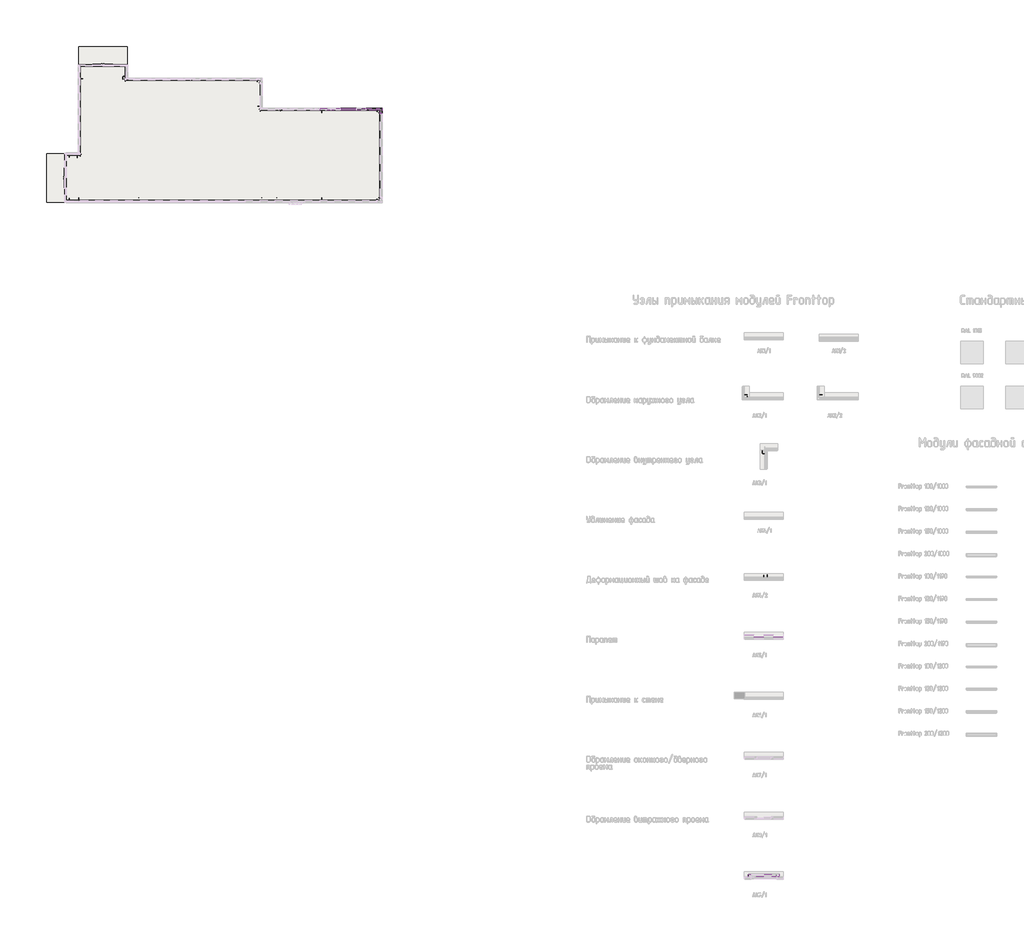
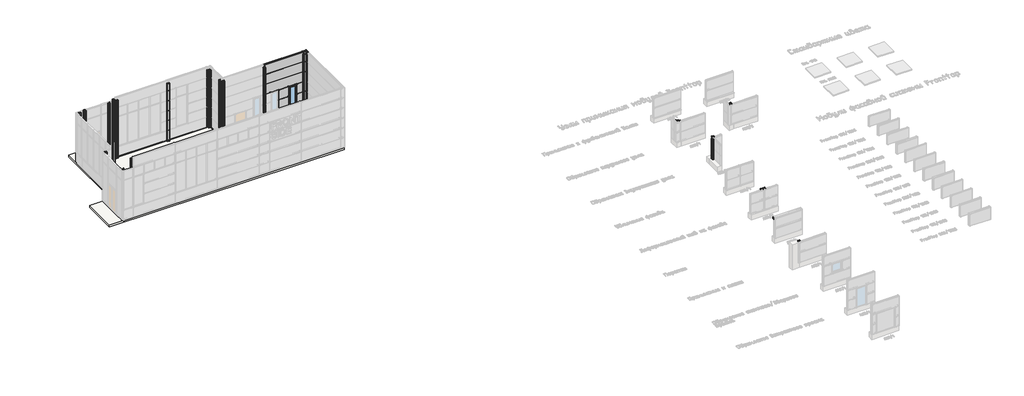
# One storey, part 4 of 37: 39 columns, 13 plates, 10 beams, 1 slab, 1 window.
"""IFC4 building model written with IfcOpenShell, lengths in millimetres."""

from ifc_helpers import new_model, si_unit, frame, origin, place, context, project, spatial, polyline, outline, extrude, transform, mapped, element, save
from components import beam_ac02ee2d, beam_160x160x6shs_bbe97a6c, l_110x70x6_3306c930, l_110x70x6_d274b7ba, l_110x70x6_272b69ad, l_110x70x6_3cb941dd, l_110x70x6_8a1b4ed6, l_110x70x6_fd97dbec, l_110x70x6_443061e0, l_110x70x6_c68c683c, column_160x160x6shs_eccf6851, column_200x160x8rhs_5398ac9a, column_200x160x8rhs_aa57b542, column_200x160x8rhs_df1c46cb, column_200x160x8rhs_3ddef152, l102x76x6_4_0af6abb1, l102x76x6_4_d7a43291, l102x76x6_4_4a3fd003, l102x76x6_4_f19e9d96, plate_d031de24, plate_355e1d5d, plate_a368a3c0, plate_69a0faa1, plate_1ac65dce, window_bba19c4c

model = new_model("IFC4")

# Units and contexts
model_context = context("Model", 3, world=origin())
ifc_project = project(units=[si_unit("LENGTHUNIT", "METRE", prefix="MILLI")], contexts=[model_context])

# Site, building, storey
site = spatial("IfcSite", under=ifc_project)
building = spatial("IfcBuilding", under=site)
storey = spatial("IfcBuildingStorey", under=building, Name="Этаж 01", Elevation=0.0)

# Beams
placement = place(None, origin())
beam_shape = beam_ac02ee2d(model_context)
element("IfcBeam", 1, ObjectType="Труба прямоугольного сечения (ТУ 67-2287-80) Балки : труба200x160x8", at=placement, inside=storey, context=model_context, shape_type="MappedRepresentation", body=[
    mapped(beam_shape, transform((47113.7069431, -29080.1316508, 1925.0), x_axis=(1.0, 0.0, 0.0), y_axis=(0.0, 1.0, 0.0), z_axis=(0.0, 0.0, 1.0))),
])
beam_160x160x6shs_shape = beam_160x160x6shs_bbe97a6c(model_context)
element("IfcBeam", 2, ObjectType="КПС-Квадратное пустотелое сечение : 160x160x6SHS", at=placement, inside=storey, context=model_context, shape_type="MappedRepresentation", body=[
    mapped(beam_160x160x6shs_shape, transform((47123.7069431, -45080.1316508, 2095.0), x_axis=(1.0, 0.0, 0.0), y_axis=(0.0, 1.0, 0.0), z_axis=(0.0, 0.0, 1.0))),
])
l_110x70x6_shape = l_110x70x6_3306c930(model_context)
element("IfcBeam", 3, ObjectType="Уголок (ГОСТ 8510-86) Балки : L 110x70x6", at=placement, inside=storey, context=model_context, shape_type="MappedRepresentation", body=[
    mapped(l_110x70x6_shape, transform((11020.0, -29.0, 15.8), x_axis=(-1.0000000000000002, 0.0, 0.0), y_axis=(0.0, 0.0, -1.0000000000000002), z_axis=(0.0, -1.0000000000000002, 0.0))),
])
l_110x70x6_2_shape = l_110x70x6_d274b7ba(model_context)
element("IfcBeam", 4, ObjectType="Уголок (ГОСТ 8510-86) Балки : L 110x70x6", at=placement, inside=storey, context=model_context, shape_type="MappedRepresentation", body=[
    mapped(l_110x70x6_2_shape, transform((1020.0, 3029.0000002, 15.8), x_axis=(1.0000000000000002, 0.0, 0.0), y_axis=(0.0, 0.0, -1.0000000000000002), z_axis=(0.0, 1.0000000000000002, 0.0))),
])
l_110x70x6_3_shape = l_110x70x6_272b69ad(model_context)
element("IfcBeam", 5, ObjectType="Уголок (ГОСТ 8510-86) Балки : L 110x70x6", at=placement, inside=storey, context=model_context, shape_type="MappedRepresentation", body=[
    mapped(l_110x70x6_3_shape, transform((9000.0, 8029.0, 15.8), x_axis=(1.0000000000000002, 0.0, 0.0), y_axis=(0.0, 0.0, -1.0000000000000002), z_axis=(0.0, 1.0000000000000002, 0.0))),
])
l_110x70x6_4_shape = l_110x70x6_3cb941dd(model_context)
element("IfcBeam", 6, ObjectType="Уголок (ГОСТ 8510-86) Балки : L 110x70x6", at=placement, inside=storey, context=model_context, shape_type="MappedRepresentation", body=[
    mapped(l_110x70x6_4_shape, transform((13529.0, 7000.0, 15.8), x_axis=(0.0, -1.0000000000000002, 0.0), y_axis=(0.0, 0.0, -1.0000000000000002), z_axis=(1.0000000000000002, 0.0, 0.0))),
])
l_110x70x6_5_shape = l_110x70x6_8a1b4ed6(model_context)
element("IfcBeam", 7, ObjectType="Уголок (ГОСТ 8510-86) Балки : L 110x70x6", at=placement, inside=storey, context=model_context, shape_type="MappedRepresentation", body=[
    mapped(l_110x70x6_5_shape, transform((17500.0, 6029.0, 15.8), x_axis=(1.0000000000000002, 0.0, 0.0), y_axis=(0.0, 0.0, -1.0000000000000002), z_axis=(0.0, 1.0000000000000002, 0.0))),
])
l_110x70x6_6_shape = l_110x70x6_fd97dbec(model_context)
element("IfcBeam", 8, ObjectType="Уголок (ГОСТ 8510-86) Балки : L 110x70x6", at=placement, inside=storey, context=model_context, shape_type="MappedRepresentation", body=[
    mapped(l_110x70x6_6_shape, transform((21529.0, 3003.25, 15.8), x_axis=(0.0, -1.0000000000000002, 0.0), y_axis=(0.0, 0.0, -1.0000000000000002), z_axis=(1.0000000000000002, 0.0, 0.0))),
])
l_110x70x6_7_shape = l_110x70x6_443061e0(model_context)
element("IfcBeam", 9, ObjectType="Уголок (ГОСТ 8510-86) Балки : L 110x70x6", at=placement, inside=storey, context=model_context, shape_type="MappedRepresentation", body=[
    mapped(l_110x70x6_7_shape, transform((4529.0, 8512.5, 15.8), x_axis=(0.0, -1.0000000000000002, 0.0), y_axis=(0.0, 0.0, -1.0000000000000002), z_axis=(1.0000000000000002, 0.0, 0.0))),
])
l_110x70x6_8_shape = l_110x70x6_c68c683c(model_context)
element("IfcBeam", 10, ObjectType="Уголок (ГОСТ 8510-86) Балки : L 110x70x6", at=placement, inside=storey, context=model_context, shape_type="MappedRepresentation", body=[
    mapped(l_110x70x6_8_shape, transform((1471.0, 6012.5000002, 15.8), x_axis=(0.0, 1.0000000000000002, 0.0), y_axis=(0.0, 0.0, -1.0000000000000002), z_axis=(-1.0000000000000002, 0.0, 0.0))),
])

# Columns
column_160x160x6shs_shape = column_160x160x6shs_eccf6851(model_context)
element("IfcColumn", 11, ObjectType="КПС-Квадратное пустотелое сечение-Колонна : 160x160x6SHS", at=placement, inside=storey, context=model_context, shape_type="MappedRepresentation", body=[
    mapped(column_160x160x6shs_shape, transform((46173.7069431, -45080.1316508, 0.0), x_axis=(1.0, 0.0, 0.0), y_axis=(0.0, 1.0, 0.0), z_axis=(0.0, 0.0, 1.0))),
])
element("IfcColumn", 12, ObjectType="КПС-Квадратное пустотелое сечение-Колонна : 160x160x6SHS", at=placement, inside=storey, context=model_context, shape_type="MappedRepresentation", body=[
    mapped(column_160x160x6shs_shape, transform((48073.7069431, -45080.1316508, 0.0), x_axis=(1.0, 0.0, 0.0), y_axis=(0.0, 1.0, 0.0), z_axis=(0.0, 0.0, 1.0))),
])
column_200x160x8rhs_shape = column_200x160x8rhs_5398ac9a(model_context)
element("IfcColumn", 13, ObjectType="ППС-Прямоугольное пустотелое сечение-Колонна : 200x160x8RHS", at=placement, inside=storey, context=model_context, shape_type="MappedRepresentation", body=[
    mapped(column_200x160x8rhs_shape, transform((1580.0, 8000.0, 0.0), x_axis=(-1.0, 0.0, 0.0), y_axis=(0.0, -1.0, 0.0), z_axis=(0.0, 0.0, 1.0))),
])
element("IfcColumn", 14, ObjectType="ППС-Прямоугольное пустотелое сечение-Колонна : 200x160x8RHS", at=placement, inside=storey, context=model_context, shape_type="MappedRepresentation", body=[
    mapped(column_200x160x8rhs_shape, transform((9500.0, 7920.0, 0.0), x_axis=(0.0, 1.0, 0.0), y_axis=(-1.0, 0.0, 0.0), z_axis=(0.0, 0.0, 1.0))),
])
element("IfcColumn", 15, ObjectType="ППС-Прямоугольное пустотелое сечение-Колонна : 200x160x8RHS", at=placement, inside=storey, context=model_context, shape_type="MappedRepresentation", body=[
    mapped(column_200x160x8rhs_shape, transform((13400.0, 7920.0, 0.0), x_axis=(0.0, 1.0, 0.0), y_axis=(-1.0, 0.0, 0.0), z_axis=(0.0, 0.0, 1.0))),
])
element("IfcColumn", 16, ObjectType="ППС-Прямоугольное пустотелое сечение-Колонна : 200x160x8RHS", at=placement, inside=storey, context=model_context, shape_type="MappedRepresentation", body=[
    mapped(column_200x160x8rhs_shape, transform((17500.0, 5920.0, 0.0), x_axis=(0.0, 1.0, 0.0), y_axis=(-1.0, 0.0, 0.0), z_axis=(0.0, 0.0, 1.0))),
])
element("IfcColumn", 17, ObjectType="ППС-Прямоугольное пустотелое сечение-Колонна : 200x160x8RHS", at=placement, inside=storey, context=model_context, shape_type="MappedRepresentation", body=[
    mapped(column_200x160x8rhs_shape, transform((21400.0, 5920.0, 0.0), x_axis=(0.0, 1.0, 0.0), y_axis=(-1.0, 0.0, 0.0), z_axis=(0.0, 0.0, 1.0))),
])
element("IfcColumn", 18, ObjectType="ППС-Прямоугольное пустотелое сечение-Колонна : 200x160x8RHS", at=placement, inside=storey, context=model_context, shape_type="MappedRepresentation", body=[
    mapped(column_200x160x8rhs_shape, transform((17500.0, 80.0, 0.0), x_axis=(0.0, 1.0, 0.0), y_axis=(-1.0, 0.0, 0.0), z_axis=(0.0, 0.0, 1.0))),
])
element("IfcColumn", 19, ObjectType="ППС-Прямоугольное пустотелое сечение-Колонна : 200x160x8RHS", at=placement, inside=storey, context=model_context, shape_type="MappedRepresentation", body=[
    mapped(column_200x160x8rhs_shape, transform((21400.0, 80.0, 0.0), x_axis=(0.0, 1.0, 0.0), y_axis=(-1.0, 0.0, 0.0), z_axis=(0.0, 0.0, 1.0))),
])
element("IfcColumn", 20, ObjectType="ППС-Прямоугольное пустотелое сечение-Колонна : 200x160x8RHS", at=placement, inside=storey, context=model_context, shape_type="MappedRepresentation", body=[
    mapped(column_200x160x8rhs_shape, transform((13500.0, 80.0, 0.0), x_axis=(0.0, 1.0, 0.0), y_axis=(-1.0, 0.0, 0.0), z_axis=(0.0, 0.0, 1.0))),
])
element("IfcColumn", 21, ObjectType="ППС-Прямоугольное пустотелое сечение-Колонна : 200x160x8RHS", at=placement, inside=storey, context=model_context, shape_type="MappedRepresentation", body=[
    mapped(column_200x160x8rhs_shape, transform((9500.0, 80.0, 0.0), x_axis=(0.0, 1.0, 0.0), y_axis=(-1.0, 0.0, 0.0), z_axis=(0.0, 0.0, 1.0))),
])
element("IfcColumn", 22, ObjectType="ППС-Прямоугольное пустотелое сечение-Колонна : 200x160x8RHS", at=placement, inside=storey, context=model_context, shape_type="MappedRepresentation", body=[
    mapped(column_200x160x8rhs_shape, transform((5500.0, 80.0, 0.0), x_axis=(0.0, 1.0, 0.0), y_axis=(-1.0, 0.0, 0.0), z_axis=(0.0, 0.0, 1.0))),
])
element("IfcColumn", 23, ObjectType="ППС-Прямоугольное пустотелое сечение-Колонна : 200x160x8RHS", at=placement, inside=storey, context=model_context, shape_type="MappedRepresentation", body=[
    mapped(column_200x160x8rhs_shape, transform((1500.0, 80.0, 0.0), x_axis=(0.0, 1.0, 0.0), y_axis=(-1.0, 0.0, 0.0), z_axis=(0.0, 0.0, 1.0))),
])
element("IfcColumn", 24, ObjectType="ППС-Прямоугольное пустотелое сечение-Колонна : 200x160x8RHS", at=placement, inside=storey, context=model_context, shape_type="MappedRepresentation", body=[
    mapped(column_200x160x8rhs_shape, transform((14500.0, 80.0, 0.0), x_axis=(0.0, 1.0, 0.0), y_axis=(-1.0, 0.0, 0.0), z_axis=(0.0, 0.0, 1.0))),
])
element("IfcColumn", 25, ObjectType="ППС-Прямоугольное пустотелое сечение-Колонна : 200x160x8RHS", at=placement, inside=storey, context=model_context, shape_type="MappedRepresentation", body=[
    mapped(column_200x160x8rhs_shape, transform((13600.0, 5920.0, 0.0), x_axis=(0.0, 1.0, 0.0), y_axis=(-1.0, 0.0, 0.0), z_axis=(0.0, 0.0, 1.0))),
])
element("IfcColumn", 26, ObjectType="ППС-Прямоугольное пустотелое сечение-Колонна : 200x160x8RHS", at=placement, inside=storey, context=model_context, shape_type="MappedRepresentation", body=[
    mapped(column_200x160x8rhs_shape, transform((13420.0578348, 6165.0577046, 0.0), x_axis=(-1.0, 0.0, 0.0), y_axis=(0.0, -1.0, 0.0), z_axis=(0.0, 0.0, 1.0))),
])
element("IfcColumn", 27, ObjectType="ППС-Прямоугольное пустотелое сечение-Колонна : 200x160x8RHS", at=placement, inside=storey, context=model_context, shape_type="MappedRepresentation", body=[
    mapped(column_200x160x8rhs_shape, transform((4600.0, 7920.0, 0.0), x_axis=(0.0, 1.0, 0.0), y_axis=(-1.0, 0.0, 0.0), z_axis=(0.0, 0.0, 1.0))),
])
element("IfcColumn", 28, ObjectType="ППС-Прямоугольное пустотелое сечение-Колонна : 200x160x8RHS", at=placement, inside=storey, context=model_context, shape_type="MappedRepresentation", body=[
    mapped(column_200x160x8rhs_shape, transform((4420.0578348, 8165.0577046, 0.0), x_axis=(-1.0, 0.0, 0.0), y_axis=(0.0, -1.0, 0.0), z_axis=(0.0, 0.0, 1.0))),
])
column_200x160x8rhs_2_shape = column_200x160x8rhs_aa57b542(model_context)
element("IfcColumn", 29, ObjectType="ППС-Прямоугольное пустотелое сечение-Колонна : 200x160x8RHS", at=placement, inside=storey, context=model_context, shape_type="MappedRepresentation", body=[
    mapped(column_200x160x8rhs_2_shape, transform((1400.0578348, 2919.9422954, 0.0), x_axis=(0.0, 1.0, 0.0), y_axis=(-1.0, 0.0, 0.0), z_axis=(0.0, 0.0, 1.0))),
])
element("IfcColumn", 30, ObjectType="ППС-Прямоугольное пустотелое сечение-Колонна : 200x160x8RHS", at=placement, inside=storey, context=model_context, shape_type="MappedRepresentation", body=[
    mapped(column_200x160x8rhs_2_shape, transform((1580.0, 3165.0, 0.0), x_axis=(1.0, 0.0, 0.0), y_axis=(0.0, 1.0, 0.0), z_axis=(0.0, 0.0, 1.0))),
])
column_200x160x8rhs_3_shape = column_200x160x8rhs_df1c46cb(model_context)
element("IfcColumn", 31, ObjectType="ППС-Прямоугольное пустотелое сечение-Колонна : 200x160x8RHS", at=placement, inside=storey, context=model_context, shape_type="MappedRepresentation", body=[
    mapped(column_200x160x8rhs_3_shape, transform((4400.0, 8880.0, 0.0), x_axis=(0.0, 1.0, 0.0), y_axis=(-1.0, 0.0, 0.0), z_axis=(0.0, 0.0, 1.0))),
])
element("IfcColumn", 32, ObjectType="ППС-Прямоугольное пустотелое сечение-Колонна : 200x160x8RHS", at=placement, inside=storey, context=model_context, shape_type="MappedRepresentation", body=[
    mapped(column_200x160x8rhs_3_shape, transform((1600.0, 8880.0, 0.0), x_axis=(0.0, 1.0, 0.0), y_axis=(-1.0, 0.0, 0.0), z_axis=(0.0, 0.0, 1.0))),
])
element("IfcColumn", 33, ObjectType="ППС-Прямоугольное пустотелое сечение-Колонна : 200x160x8RHS", at=placement, inside=storey, context=model_context, shape_type="MappedRepresentation", body=[
    mapped(column_200x160x8rhs_3_shape, transform((640.0, 80.0, 0.0), x_axis=(0.0, 1.0, 0.0), y_axis=(-1.0, 0.0, 0.0), z_axis=(0.0, 0.0, 1.0))),
])
element("IfcColumn", 34, ObjectType="ППС-Прямоугольное пустотелое сечение-Колонна : 200x160x8RHS", at=placement, inside=storey, context=model_context, shape_type="MappedRepresentation", body=[
    mapped(column_200x160x8rhs_3_shape, transform((640.0, 2920.0000002, 0.0), x_axis=(0.0, 1.0, 0.0), y_axis=(-1.0, 0.0, 0.0), z_axis=(0.0, 0.0, 1.0))),
])
column_200x160x8rhs_4_shape = column_200x160x8rhs_3ddef152(model_context)
element("IfcColumn", 35, ObjectType="ППС-Прямоугольное пустотелое сечение-Колонна : 200x160x8RHS", at=placement, inside=storey, context=model_context, shape_type="MappedRepresentation", body=[
    mapped(column_200x160x8rhs_4_shape, transform((47238.8164092, -25080.1316508, 0.0), x_axis=(0.0, 1.0, 0.0), y_axis=(-1.0, 0.0, 0.0), z_axis=(0.0, 0.0, 1.0))),
])
element("IfcColumn", 36, ObjectType="ППС-Прямоугольное пустотелое сечение-Колонна : 200x160x8RHS", at=placement, inside=storey, context=model_context, shape_type="MappedRepresentation", body=[
    mapped(column_200x160x8rhs_4_shape, transform((46998.8164092, -25080.1316508, 0.0), x_axis=(0.0, 1.0, 0.0), y_axis=(-1.0, 0.0, 0.0), z_axis=(0.0, 0.0, 1.0))),
])
element("IfcColumn", 37, ObjectType="ППС-Прямоугольное пустотелое сечение-Колонна : 200x160x8RHS", at=placement, inside=storey, context=model_context, shape_type="MappedRepresentation", body=[
    mapped(column_200x160x8rhs_4_shape, transform((50923.7069431, -13080.1316508, 0.0), x_axis=(0.0, 1.0, 0.0), y_axis=(-1.0, 0.0, 0.0), z_axis=(0.0, 0.0, 1.0))),
])
element("IfcColumn", 38, ObjectType="ППС-Прямоугольное пустотелое сечение-Колонна : 200x160x8RHS", at=placement, inside=storey, context=model_context, shape_type="MappedRepresentation", body=[
    mapped(column_200x160x8rhs_4_shape, transform((47105.2069431, -16808.1316508, 0.0), x_axis=(-1.0, 0.0, 0.0), y_axis=(0.0, -1.0, 0.0), z_axis=(0.0, 0.0, 1.0))),
])
element("IfcColumn", 39, ObjectType="ППС-Прямоугольное пустотелое сечение-Колонна : 200x160x8RHS", at=placement, inside=storey, context=model_context, shape_type="MappedRepresentation", body=[
    mapped(column_200x160x8rhs_4_shape, transform((47285.2069431, -16490.1316508, 0.0), x_axis=(0.0, 1.0, 0.0), y_axis=(-1.0, 0.0, 0.0), z_axis=(0.0, 0.0, 1.0))),
])
element("IfcColumn", 40, ObjectType="ППС-Прямоугольное пустотелое сечение-Колонна : 200x160x8RHS", at=placement, inside=storey, context=model_context, shape_type="MappedRepresentation", body=[
    mapped(column_200x160x8rhs_4_shape, transform((45940.7069431, -33080.1316508, 0.0), x_axis=(0.0, 1.0, 0.0), y_axis=(-1.0, 0.0, 0.0), z_axis=(0.0, 0.0, 1.0))),
])
element("IfcColumn", 41, ObjectType="ППС-Прямоугольное пустотелое сечение-Колонна : 200x160x8RHS", at=placement, inside=storey, context=model_context, shape_type="MappedRepresentation", body=[
    mapped(column_200x160x8rhs_4_shape, transform((45923.7069431, -13080.1316508, 0.0), x_axis=(0.0, 1.0, 0.0), y_axis=(-1.0, 0.0, 0.0), z_axis=(0.0, 0.0, 1.0))),
])
l102x76x6_4_shape = l102x76x6_4_0af6abb1(model_context)
element("IfcColumn", 42, ObjectType="Уголок-Колонна : L102X76X6.4", at=placement, inside=storey, context=model_context, shape_type="MappedRepresentation", body=[
    mapped(l102x76x6_4_shape, transform((13481.6, 7809.0, 0.0), x_axis=(-1.0, 0.0, 0.0), y_axis=(0.0, -1.0, 0.0), z_axis=(0.0, 0.0, 1.0))),
])
element("IfcColumn", 43, ObjectType="Уголок-Колонна : L102X76X6.4", at=placement, inside=storey, context=model_context, shape_type="MappedRepresentation", body=[
    mapped(l102x76x6_4_shape, transform((21481.6, 5809.0, 0.0), x_axis=(-1.0, 0.0, 0.0), y_axis=(0.0, -1.0, 0.0), z_axis=(0.0, 0.0, 1.0))),
])
element("IfcColumn", 44, ObjectType="Уголок-Колонна : L102X76X6.4", at=placement, inside=storey, context=model_context, shape_type="MappedRepresentation", body=[
    mapped(l102x76x6_4_shape, transform((21269.0, 18.4, 0.0), x_axis=(0.0, 1.0, 0.0), y_axis=(-1.0, 0.0, 0.0), z_axis=(0.0, 0.0, 1.0))),
])
l102x76x6_4_2_shape = l102x76x6_4_d7a43291(model_context)
element("IfcColumn", 45, ObjectType="Уголок-Колонна : L102X76X6.4", at=placement, inside=storey, context=model_context, shape_type="MappedRepresentation", body=[
    mapped(l102x76x6_4_2_shape, transform((13269.0, 7981.6, 0.0), x_axis=(0.0, -1.0, 0.0), y_axis=(1.0, 0.0, 0.0), z_axis=(0.0, 0.0, 1.0))),
])
element("IfcColumn", 46, ObjectType="Уголок-Колонна : L102X76X6.4", at=placement, inside=storey, context=model_context, shape_type="MappedRepresentation", body=[
    mapped(l102x76x6_4_2_shape, transform((21269.0, 5981.6577046, 0.0), x_axis=(0.0, -1.0, 0.0), y_axis=(1.0, 0.0, 0.0), z_axis=(0.0, 0.0, 1.0))),
])
element("IfcColumn", 47, ObjectType="Уголок-Колонна : L102X76X6.4", at=placement, inside=storey, context=model_context, shape_type="MappedRepresentation", body=[
    mapped(l102x76x6_4_2_shape, transform((21481.6, 191.0, 0.0), x_axis=(-1.0, 0.0, 0.0), y_axis=(0.0, -1.0, 0.0), z_axis=(0.0, 0.0, 1.0))),
])
l102x76x6_4_3_shape = l102x76x6_4_4a3fd003(model_context)
element("IfcColumn", 48, ObjectType="Уголок-Колонна : L102X76X6.4", at=placement, inside=storey, context=model_context, shape_type="MappedRepresentation", body=[
    mapped(l102x76x6_4_3_shape, transform((46054.7069431, -13141.7316508, 0.0), x_axis=(0.0, 1.0, 0.0), y_axis=(-1.0, 0.0, 0.0), z_axis=(0.0, 0.0, 1.0))),
])
l102x76x6_4_4_shape = l102x76x6_4_f19e9d96(model_context)
element("IfcColumn", 49, ObjectType="Уголок-Колонна : L102X76X6.4", at=placement, inside=storey, context=model_context, shape_type="MappedRepresentation", body=[
    mapped(l102x76x6_4_4_shape, transform((45842.1069431, -12969.1316508, 0.0), x_axis=(1.0, 0.0, 0.0), y_axis=(0.0, 1.0, 0.0), z_axis=(0.0, 0.0, 1.0))),
])

# Plates
plate_shape = plate_d031de24(model_context)
element("IfcPlate", 50, ObjectType="Fronttop : Fronttop 150/1000", at=placement, inside=storey, context=model_context, shape_type="MappedRepresentation", body=[
    mapped(plate_shape, transform((19390.0, 6000.0, 3025.0), x_axis=(1.0, 0.0, 0.0), y_axis=(0.0, 1.0, 0.0), z_axis=(0.0, 0.0, 1.0))),
])
element("IfcPlate", 51, ObjectType="Fronttop : Fronttop 150/1000", at=placement, inside=storey, context=model_context, shape_type="MappedRepresentation", body=[
    mapped(plate_shape, transform((19390.0, 6000.0, 4025.0), x_axis=(1.0, 0.0, 0.0), y_axis=(0.0, 1.0, 0.0), z_axis=(0.0, 0.0, 1.0))),
])
element("IfcPlate", 52, ObjectType="Fronttop : Fronttop 150/1000", at=placement, inside=storey, context=model_context, shape_type="MappedRepresentation", body=[
    mapped(plate_shape, transform((19390.0, 6000.0, 5025.0), x_axis=(1.0, 0.0, 0.0), y_axis=(0.0, 1.0, 0.0), z_axis=(0.0, 0.0, 1.0))),
])
plate_2_shape = plate_355e1d5d(model_context)
element("IfcPlate", 53, ObjectType="Fronttop : Fronttop 150/1000", at=placement, inside=storey, context=model_context, shape_type="MappedRepresentation", body=[
    mapped(plate_2_shape, transform((20935.0, 6000.0, 1025.0), x_axis=(1.0, 0.0, 0.0), y_axis=(0.0, 1.0, 0.0), z_axis=(0.0, 0.0, 1.0))),
])
element("IfcPlate", 54, ObjectType="Fronttop : Fronttop 150/1000", at=placement, inside=storey, context=model_context, shape_type="MappedRepresentation", body=[
    mapped(plate_2_shape, transform((20935.0, 6000.0, 2025.0), x_axis=(1.0, 0.0, 0.0), y_axis=(0.0, 1.0, 0.0), z_axis=(0.0, 0.0, 1.0))),
])
plate_3_shape = plate_a368a3c0(model_context)
element("IfcPlate", 55, ObjectType="Fronttop : Fronttop 150/1000", at=placement, inside=storey, context=model_context, shape_type="MappedRepresentation", body=[
    mapped(plate_3_shape, transform((19390.0, 6000.0, 1025.0), x_axis=(1.0, 0.0, 0.0), y_axis=(0.0, 1.0, 0.0), z_axis=(0.0, 0.0, 1.0))),
])
element("IfcPlate", 56, ObjectType="Fronttop : Fronttop 150/1000", at=placement, inside=storey, context=model_context, shape_type="MappedRepresentation", body=[
    mapped(plate_3_shape, transform((19390.0, 6000.0, 2025.0), x_axis=(1.0, 0.0, 0.0), y_axis=(0.0, 1.0, 0.0), z_axis=(0.0, 0.0, 1.0))),
])
plate_4_shape = plate_69a0faa1(model_context)
plate_5_shape = plate_1ac65dce(model_context)
element("IfcPlate", 57, ObjectType="Угловой модуль Fronttop : Угловой модуль Fronttop 150/1000", at=placement, inside=storey, context=model_context, shape_type="MappedRepresentation", body=[
    mapped(plate_4_shape, transform((21465.0, 6000.0, 25.0), x_axis=(1.0, 0.0, 0.0), y_axis=(0.0, 1.0, 0.0), z_axis=(0.0, 0.0, 1.0))),
    mapped(plate_5_shape, transform((21465.0, 6000.0, 25.0), x_axis=(1.0, 0.0, 0.0), y_axis=(0.0, 1.0, 0.0), z_axis=(0.0, 0.0, 1.0))),
])
element("IfcPlate", 58, ObjectType="Угловой модуль Fronttop : Угловой модуль Fronttop 150/1000", at=placement, inside=storey, context=model_context, shape_type="MappedRepresentation", body=[
    mapped(plate_4_shape, transform((21465.0, 6000.0, 1025.0), x_axis=(1.0, 0.0, 0.0), y_axis=(0.0, 1.0, 0.0), z_axis=(0.0, 0.0, 1.0))),
    mapped(plate_5_shape, transform((21465.0, 6000.0, 1025.0), x_axis=(1.0, 0.0, 0.0), y_axis=(0.0, 1.0, 0.0), z_axis=(0.0, 0.0, 1.0))),
])
element("IfcPlate", 59, ObjectType="Угловой модуль Fronttop : Угловой модуль Fronttop 150/1000", at=placement, inside=storey, context=model_context, shape_type="MappedRepresentation", body=[
    mapped(plate_4_shape, transform((21465.0, 6000.0, 2025.0), x_axis=(1.0, 0.0, 0.0), y_axis=(0.0, 1.0, 0.0), z_axis=(0.0, 0.0, 1.0))),
    mapped(plate_5_shape, transform((21465.0, 6000.0, 2025.0), x_axis=(1.0, 0.0, 0.0), y_axis=(0.0, 1.0, 0.0), z_axis=(0.0, 0.0, 1.0))),
])
element("IfcPlate", 60, ObjectType="Угловой модуль Fronttop : Угловой модуль Fronttop 150/1000", at=placement, inside=storey, context=model_context, shape_type="MappedRepresentation", body=[
    mapped(plate_4_shape, transform((21465.0, 6000.0, 3025.0), x_axis=(1.0, 0.0, 0.0), y_axis=(0.0, 1.0, 0.0), z_axis=(0.0, 0.0, 1.0))),
    mapped(plate_5_shape, transform((21465.0, 6000.0, 3025.0), x_axis=(1.0, 0.0, 0.0), y_axis=(0.0, 1.0, 0.0), z_axis=(0.0, 0.0, 1.0))),
])
element("IfcPlate", 61, ObjectType="Угловой модуль Fronttop : Угловой модуль Fronttop 150/1000", at=placement, inside=storey, context=model_context, shape_type="MappedRepresentation", body=[
    mapped(plate_4_shape, transform((21465.0, 6000.0, 4025.0), x_axis=(1.0, 0.0, 0.0), y_axis=(0.0, 1.0, 0.0), z_axis=(0.0, 0.0, 1.0))),
    mapped(plate_5_shape, transform((21465.0, 6000.0, 4025.0), x_axis=(1.0, 0.0, 0.0), y_axis=(0.0, 1.0, 0.0), z_axis=(0.0, 0.0, 1.0))),
])
element("IfcPlate", 62, ObjectType="Угловой модуль Fronttop : Угловой модуль Fronttop 150/1000", at=placement, inside=storey, context=model_context, shape_type="MappedRepresentation", body=[
    mapped(plate_4_shape, transform((21465.0, 6000.0, 5025.0), x_axis=(1.0, 0.0, 0.0), y_axis=(0.0, 1.0, 0.0), z_axis=(0.0, 0.0, 1.0))),
    mapped(plate_5_shape, transform((21465.0, 6000.0, 5025.0), x_axis=(1.0, 0.0, 0.0), y_axis=(0.0, 1.0, 0.0), z_axis=(0.0, 0.0, 1.0))),
])

# Slab
element("IfcSlab", 63, ObjectType="ADSK_Перекрытие_Плита_Бетон_220", at=placement, inside=storey, context=model_context, shape_type="SweptSolid", body=[
    extrude(outline(polyline([(13620.0578348, 8120.0), (13620.0578348, 6120.0), (21620.0, 6120.0), (21620.0, -120.0), (-760.0, -120.0), (-760.0, 3120.0), (1380.0, 3120.0), (1380.0, 10260.0), (4620.0, 10260.0), (4620.0, 8120.0), (13620.0578348, 8120.0)])), frame((0.0, 0.0, -220.0), z_axis=(0.0, 0.0, 1.0), x_axis=(1.0, 0.0, 0.0)), (0.0, 0.0, 1.0), 220.0),
])

# Window
window_shape = window_bba19c4c(model_context)
element("IfcWindow", 64, ObjectType="Витраж-тент Фронтсайд : Витраж-тент", at=placement, inside=storey, context=model_context, shape_type="MappedRepresentation", body=[
    mapped(window_shape, transform((20240.0, 6000.0, 1025.0), x_axis=(1.0, 0.0, 0.0), y_axis=(0.0, 1.0, 0.0), z_axis=(0.0, 0.0, 1.0))),
])

save(model, "model.ifc")
